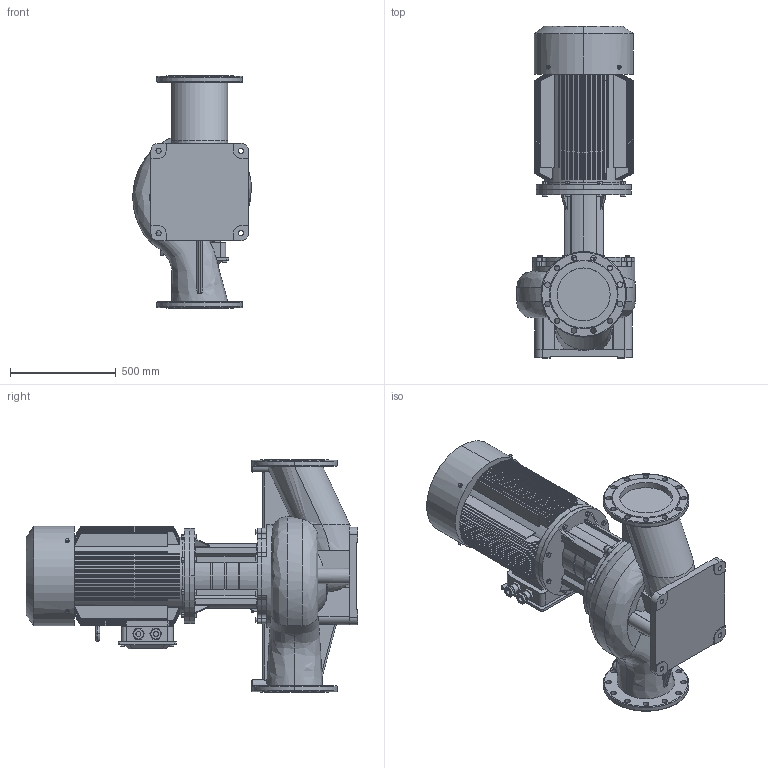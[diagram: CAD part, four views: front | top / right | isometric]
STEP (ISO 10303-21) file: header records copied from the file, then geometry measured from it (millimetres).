
FILE_DESCRIPTION (( 'STEP AP203' ), '1' );
FILE_NAME ('TD250-17G／4.STEP', '2026-09-07T03:18:07', ( '' ), ( '' ), 'SwSTEP 2.0', 'SolidWorks 2020', '' );
FILE_SCHEMA (( 'CONFIG_CONTROL_DESIGN' ));
Products named in the file (1): TD250-17Gㄞ4
Bounding box: 560.98 x 1571 x 1100 mm (x, y, z)
Volume: 251894658 mm3; surface area: 8457466.7 mm2
Topology: 1 solids, 13 shells, 1782 faces, 4505 edges, 2848 vertices
Faces by surface type: plane 767, cylinder 478, cone 442, torus 54, bspline 41
Entity records: 77142 total; most frequent: CARTESIAN_POINT 35167, ORIENTED_EDGE 9006, DIRECTION 8466, EDGE_CURVE 4503, AXIS2_PLACEMENT_3D 3373, VERTEX_POINT 2848, EDGE_LOOP 1959, ADVANCED_FACE 1782
